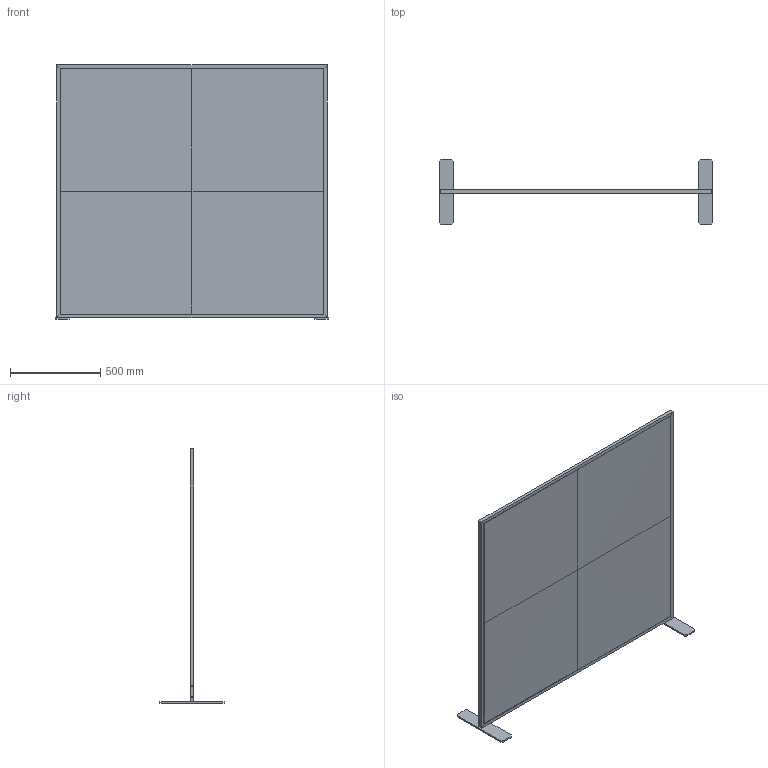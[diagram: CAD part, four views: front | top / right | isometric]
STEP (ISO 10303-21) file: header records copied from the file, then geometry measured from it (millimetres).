
FILE_DESCRIPTION(/* description */ (''),/* implementation_level */ '2;1');
FILE_NAME(/* name */ 'SL-WALL,X',/* time_stamp */ '2021-10-22T15:05:54+02:00',/* author */ (''),/* organization */ (''),/* preprocessor_version */ 'ST-DEVELOPER v16.5',/* originating_system */ '',/* authorisation */ '');
FILE_SCHEMA (('CONFIG_CONTROL_DESIGN'));
Length unit declared in the file: millimetre
Products named in the file (1): Document
Bounding box: 1516 x 360 x 1408 mm (x, y, z)
Volume: 459426.5 mm3; surface area: 4614939.3 mm2
Topology: 2 solids, 9 shells, 84 faces, 203 edges, 134 vertices
Faces by surface type: plane 68, cylinder 8, bspline 8
Entity records: 2581 total; most frequent: CARTESIAN_POINT 1071, ORIENTED_EDGE 376, EDGE_CURVE 200, B_SPLINE_CURVE_WITH_KNOTS 178, VERTEX_POINT 130, EDGE_LOOP 92, DIRECTION 85, ADVANCED_FACE 84
